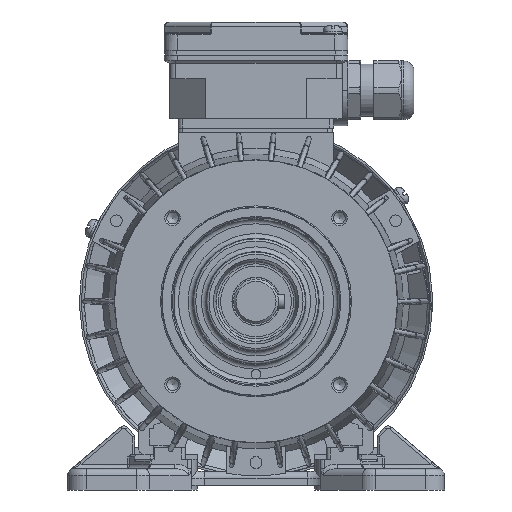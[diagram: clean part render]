
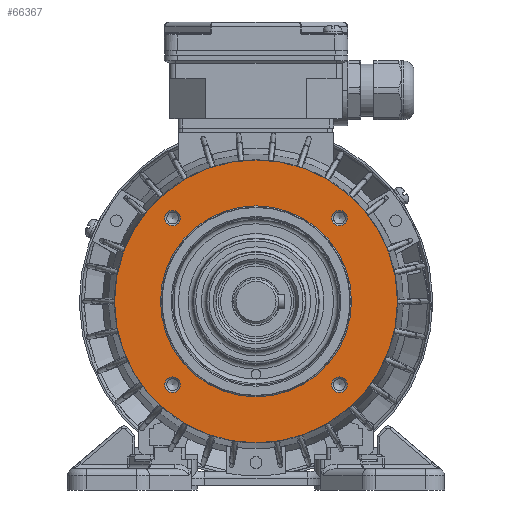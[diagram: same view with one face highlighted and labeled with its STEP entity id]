
A CAD part, left-side view. The second image highlights one B-rep face of the part: STEP entity #66367.
In plain terms, the highlighted planar face has unit normal (-1, 0, 0).
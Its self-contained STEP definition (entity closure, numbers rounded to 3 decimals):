
#16847=ORIENTED_EDGE('',*,*,#28544,.T.);
#16848=ORIENTED_EDGE('',*,*,#28543,.T.);
#16849=ORIENTED_EDGE('',*,*,#28542,.T.);
#16850=ORIENTED_EDGE('',*,*,#28541,.T.);
#16851=ORIENTED_EDGE('',*,*,#28540,.T.);
#16852=ORIENTED_EDGE('',*,*,#28545,.T.);
#28540=EDGE_CURVE('',#34920,#34920,#38644,.F.);
#28541=EDGE_CURVE('',#34921,#34921,#38645,.F.);
#28542=EDGE_CURVE('',#34922,#34922,#38646,.F.);
#28543=EDGE_CURVE('',#34923,#34923,#38647,.F.);
#28544=EDGE_CURVE('',#34924,#34924,#38648,.F.);
#28545=EDGE_CURVE('',#34925,#34925,#38649,.T.);
#34920=VERTEX_POINT('',#93430);
#34921=VERTEX_POINT('',#93433);
#34922=VERTEX_POINT('',#93436);
#34923=VERTEX_POINT('',#93439);
#34924=VERTEX_POINT('',#93442);
#34925=VERTEX_POINT('',#93445);
#38644=CIRCLE('',#70130,40.5);
#38645=CIRCLE('',#70132,3.3);
#38646=CIRCLE('',#70134,3.3);
#38647=CIRCLE('',#70136,3.3);
#38648=CIRCLE('',#70138,3.3);
#38649=CIRCLE('',#70140,60.);
#41124=EDGE_LOOP('',(#16847));
#41125=EDGE_LOOP('',(#16848));
#41126=EDGE_LOOP('',(#16849));
#41127=EDGE_LOOP('',(#16850));
#41128=EDGE_LOOP('',(#16851));
#41129=EDGE_LOOP('',(#16852));
#44362=FACE_BOUND('',#41124,.T.);
#44363=FACE_BOUND('',#41125,.T.);
#44364=FACE_BOUND('',#41126,.T.);
#44365=FACE_BOUND('',#41127,.T.);
#44366=FACE_BOUND('',#41128,.T.);
#44367=FACE_BOUND('',#41129,.T.);
#46815=PLANE('',#70139);
#66367=ADVANCED_FACE('',(#44362,#44363,#44364,#44365,#44366,#44367),#46815,
 .T.);
#70130=AXIS2_PLACEMENT_3D('',#93429,#79099,#79100);
#70132=AXIS2_PLACEMENT_3D('',#93432,#79103,#79104);
#70134=AXIS2_PLACEMENT_3D('',#93435,#79107,#79108);
#70136=AXIS2_PLACEMENT_3D('',#93438,#79111,#79112);
#70138=AXIS2_PLACEMENT_3D('',#93441,#79115,#79116);
#70139=AXIS2_PLACEMENT_3D('',#93443,#79117,#79118);
#70140=AXIS2_PLACEMENT_3D('',#93444,#79119,#79120);
#79099=DIRECTION('',(-1.,0.,0.));
#79100=DIRECTION('',(0.,0.,-1.));
#79103=DIRECTION('',(-1.,0.,0.));
#79104=DIRECTION('',(0.,0.,-1.));
#79107=DIRECTION('',(-1.,0.,0.));
#79108=DIRECTION('',(0.,0.,-1.));
#79111=DIRECTION('',(-1.,0.,0.));
#79112=DIRECTION('',(0.,0.,-1.));
#79115=DIRECTION('',(-1.,0.,0.));
#79116=DIRECTION('',(0.,0.,-1.));
#79117=DIRECTION('',(-1.,0.,0.));
#79118=DIRECTION('',(0.,0.,-1.));
#79119=DIRECTION('',(-1.,0.,0.));
#79120=DIRECTION('',(0.,0.,-1.));
#93429=CARTESIAN_POINT('',(-44.8,0.,0.));
#93430=CARTESIAN_POINT('',(-44.8,0.,-40.5));
#93432=CARTESIAN_POINT('',(-44.8,35.355,35.355));
#93433=CARTESIAN_POINT('',(-44.8,35.355,32.055));
#93435=CARTESIAN_POINT('',(-44.8,-35.355,35.355));
#93436=CARTESIAN_POINT('',(-44.8,-35.355,32.055));
#93438=CARTESIAN_POINT('',(-44.8,-35.355,-35.355));
#93439=CARTESIAN_POINT('',(-44.8,-35.355,-38.655));
#93441=CARTESIAN_POINT('',(-44.8,35.355,-35.355));
#93442=CARTESIAN_POINT('',(-44.8,35.355,-38.655));
#93443=CARTESIAN_POINT('',(-44.8,0.,40.));
#93444=CARTESIAN_POINT('',(-44.8,0.,0.));
#93445=CARTESIAN_POINT('',(-44.8,0.,-60.));
